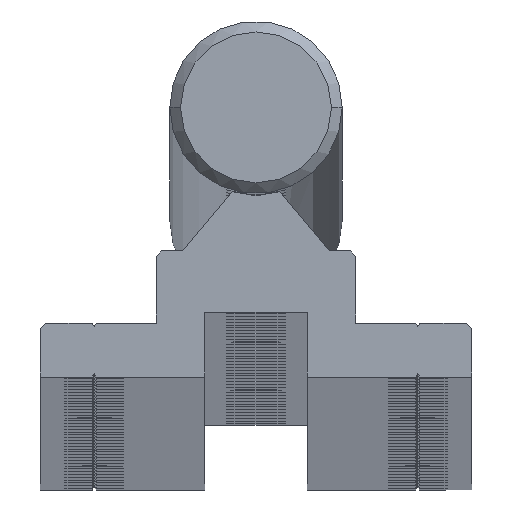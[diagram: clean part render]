
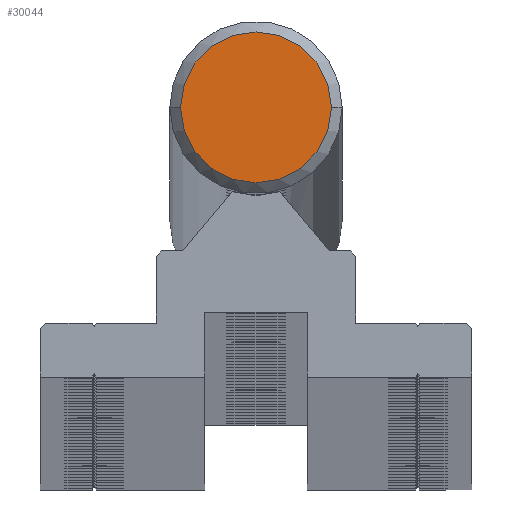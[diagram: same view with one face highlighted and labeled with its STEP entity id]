
A CAD part, top view. The second image highlights one B-rep face of the part: STEP entity #30044.
In plain terms, the highlighted planar face has unit normal (0, 0, 1).
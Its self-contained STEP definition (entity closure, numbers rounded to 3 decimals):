
#588 = ORIENTED_EDGE ( 'NONE', *, *, #597, .T. ) ;
#597 = EDGE_CURVE ( 'NONE', #24290, #33634, #29741, .T. ) ;
#3740 = CARTESIAN_POINT ( 'NONE',  ( 0., 25., 0. ) ) ;
#3872 = AXIS2_PLACEMENT_3D ( 'NONE', #28843, #23572, #34309 ) ;
#5518 = PLANE ( 'NONE',  #11253 ) ;
#8071 = CARTESIAN_POINT ( 'NONE',  ( 0., 25., 0. ) ) ;
#10806 = FACE_OUTER_BOUND ( 'NONE', #11843, .T. ) ;
#11152 = DIRECTION ( 'NONE',  ( 0., 0., 1. ) ) ;
#11253 = AXIS2_PLACEMENT_3D ( 'NONE', #3740, #11152, #24525 ) ;
#11843 = EDGE_LOOP ( 'NONE', ( #17315, #588 ) ) ;
#14663 = EDGE_CURVE ( 'NONE', #33634, #24290, #20181, .T. ) ;
#17315 = ORIENTED_EDGE ( 'NONE', *, *, #14663, .T. ) ;
#20181 = CIRCLE ( 'NONE', #27449, 7. ) ;
#21823 = DIRECTION ( 'NONE',  ( 0., 0., 1. ) ) ;
#23572 = DIRECTION ( 'NONE',  ( 0., 0., 1. ) ) ;
#24290 = VERTEX_POINT ( 'NONE', #29303 ) ;
#24525 = DIRECTION ( 'NONE',  ( 1., 0., 0. ) ) ;
#27247 = DIRECTION ( 'NONE',  ( 1., 0., 0. ) ) ;
#27449 = AXIS2_PLACEMENT_3D ( 'NONE', #8071, #21823, #27247 ) ;
#28843 = CARTESIAN_POINT ( 'NONE',  ( 0., 25., 0. ) ) ;
#29303 = CARTESIAN_POINT ( 'NONE',  ( 7., 25., 0. ) ) ;
#29741 = CIRCLE ( 'NONE', #3872, 7. ) ;
#30044 = ADVANCED_FACE ( 'NONE', ( #10806 ), #5518, .T. ) ;
#33634 = VERTEX_POINT ( 'NONE', #34731 ) ;
#34309 = DIRECTION ( 'NONE',  ( 1., 0., 0. ) ) ;
#34731 = CARTESIAN_POINT ( 'NONE',  ( -7., 25., 0. ) ) ;
